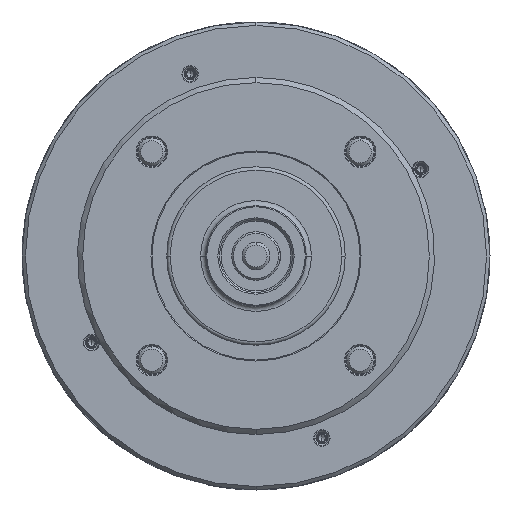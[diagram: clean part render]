
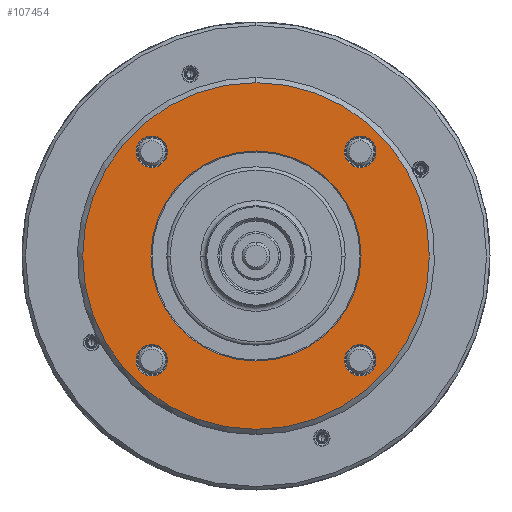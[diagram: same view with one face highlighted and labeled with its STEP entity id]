
A CAD part, left-side view. The second image highlights one B-rep face of the part: STEP entity #107454.
In plain terms, the highlighted planar face has unit normal (-1, 0, 0).
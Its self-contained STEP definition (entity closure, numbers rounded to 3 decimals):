
#709 = DIRECTION ( 'NONE',  ( 1., 0., 0. ) ) ;
#765 = CIRCLE ( 'NONE', #4421, 60.6 ) ;
#1848 = VERTEX_POINT ( 'NONE', #101922 ) ;
#2557 = CARTESIAN_POINT ( 'NONE',  ( -110., 60.104, -69.204 ) ) ;
#2603 = EDGE_CURVE ( 'NONE', #1848, #59154, #46236, .T. ) ;
#3678 = CIRCLE ( 'NONE', #12943, 9.1 ) ;
#4421 = AXIS2_PLACEMENT_3D ( 'NONE', #60303, #104466, #69603 ) ;
#5274 = DIRECTION ( 'NONE',  ( 0., 0., -1. ) ) ;
#5798 = CARTESIAN_POINT ( 'NONE',  ( -110., -60.104, -69.204 ) ) ;
#8389 = DIRECTION ( 'NONE',  ( 0., 0., -1. ) ) ;
#8823 = DIRECTION ( 'NONE',  ( 0., 0., -1. ) ) ;
#9206 = EDGE_CURVE ( 'NONE', #87935, #43146, #765, .T. ) ;
#12943 = AXIS2_PLACEMENT_3D ( 'NONE', #79035, #709, #8823 ) ;
#13077 = FACE_BOUND ( 'NONE', #104258, .T. ) ;
#14219 = PLANE ( 'NONE',  #48977 ) ;
#14330 = ORIENTED_EDGE ( 'NONE', *, *, #53131, .T. ) ;
#14814 = DIRECTION ( 'NONE',  ( 1., 0., 0. ) ) ;
#15297 = DIRECTION ( 'NONE',  ( 1., 0., 0. ) ) ;
#15385 = DIRECTION ( 'NONE',  ( 0., 0., -1. ) ) ;
#15545 = CIRCLE ( 'NONE', #39609, 9.1 ) ;
#19043 = EDGE_CURVE ( 'NONE', #107374, #83071, #59344, .T. ) ;
#19303 = DIRECTION ( 'NONE',  ( 0., 0., -1. ) ) ;
#20035 = FACE_BOUND ( 'NONE', #58895, .T. ) ;
#21447 = CIRCLE ( 'NONE', #47393, 9.1 ) ;
#23829 = ORIENTED_EDGE ( 'NONE', *, *, #9206, .T. ) ;
#29220 = ORIENTED_EDGE ( 'NONE', *, *, #96349, .T. ) ;
#30509 = FACE_BOUND ( 'NONE', #66523, .T. ) ;
#35564 = CARTESIAN_POINT ( 'NONE',  ( -110., 60.104, -60.104 ) ) ;
#36447 = DIRECTION ( 'NONE',  ( 0., 0., -1. ) ) ;
#39263 = EDGE_CURVE ( 'NONE', #112555, #94206, #58986, .T. ) ;
#39609 = AXIS2_PLACEMENT_3D ( 'NONE', #40657, #110936, #5274 ) ;
#40349 = FACE_BOUND ( 'NONE', #80455, .T. ) ;
#40409 = ORIENTED_EDGE ( 'NONE', *, *, #88780, .F. ) ;
#40657 = CARTESIAN_POINT ( 'NONE',  ( -110., -60.104, 60.104 ) ) ;
#40734 = EDGE_CURVE ( 'NONE', #91506, #113994, #3678, .T. ) ;
#43146 = VERTEX_POINT ( 'NONE', #94463 ) ;
#45082 = CARTESIAN_POINT ( 'NONE',  ( -110., 60.104, 69.204 ) ) ;
#45663 = EDGE_CURVE ( 'NONE', #94206, #112555, #21447, .T. ) ;
#46236 = CIRCLE ( 'NONE', #109327, 9.1 ) ;
#46562 = AXIS2_PLACEMENT_3D ( 'NONE', #106455, #88417, #88980 ) ;
#47393 = AXIS2_PLACEMENT_3D ( 'NONE', #65574, #109716, #49294 ) ;
#48280 = CIRCLE ( 'NONE', #61266, 9.1 ) ;
#48977 = AXIS2_PLACEMENT_3D ( 'NONE', #112322, #103604, #65896 ) ;
#49062 = FACE_OUTER_BOUND ( 'NONE', #111163, .T. ) ;
#49294 = DIRECTION ( 'NONE',  ( 0., 0., -1. ) ) ;
#49534 = ORIENTED_EDGE ( 'NONE', *, *, #45663, .T. ) ;
#49674 = EDGE_LOOP ( 'NONE', ( #49534, #56665 ) ) ;
#49722 = AXIS2_PLACEMENT_3D ( 'NONE', #79720, #60572, #8389 ) ;
#51444 = ORIENTED_EDGE ( 'NONE', *, *, #19043, .T. ) ;
#52347 = AXIS2_PLACEMENT_3D ( 'NONE', #62019, #55015, #36447 ) ;
#53131 = EDGE_CURVE ( 'NONE', #59154, #1848, #48280, .T. ) ;
#53223 = ORIENTED_EDGE ( 'NONE', *, *, #40734, .T. ) ;
#53489 = ORIENTED_EDGE ( 'NONE', *, *, #64808, .T. ) ;
#55015 = DIRECTION ( 'NONE',  ( 1., 0., 0. ) ) ;
#56207 = VERTEX_POINT ( 'NONE', #108141 ) ;
#56665 = ORIENTED_EDGE ( 'NONE', *, *, #39263, .T. ) ;
#58895 = EDGE_LOOP ( 'NONE', ( #53489, #53223 ) ) ;
#58986 = CIRCLE ( 'NONE', #49722, 9.1 ) ;
#59154 = VERTEX_POINT ( 'NONE', #45082 ) ;
#59344 = CIRCLE ( 'NONE', #105690, 9.1 ) ;
#60303 = CARTESIAN_POINT ( 'NONE',  ( -110., 0., 0. ) ) ;
#60572 = DIRECTION ( 'NONE',  ( 1., 0., 0. ) ) ;
#61266 = AXIS2_PLACEMENT_3D ( 'NONE', #67649, #14814, #15385 ) ;
#62019 = CARTESIAN_POINT ( 'NONE',  ( -110., 0., 0. ) ) ;
#63275 = CARTESIAN_POINT ( 'NONE',  ( -110., -60.104, 69.204 ) ) ;
#64454 = AXIS2_PLACEMENT_3D ( 'NONE', #94797, #15297, #86081 ) ;
#64808 = EDGE_CURVE ( 'NONE', #113994, #91506, #104829, .T. ) ;
#65048 = CARTESIAN_POINT ( 'NONE',  ( -110., 60.104, 60.104 ) ) ;
#65574 = CARTESIAN_POINT ( 'NONE',  ( -110., -60.104, -60.104 ) ) ;
#65896 = DIRECTION ( 'NONE',  ( 0., 0., -1. ) ) ;
#66523 = EDGE_LOOP ( 'NONE', ( #76834, #23829 ) ) ;
#67649 = CARTESIAN_POINT ( 'NONE',  ( -110., 60.104, 60.104 ) ) ;
#69586 = AXIS2_PLACEMENT_3D ( 'NONE', #35564, #91828, #19303 ) ;
#69603 = DIRECTION ( 'NONE',  ( 0., 0., -1. ) ) ;
#69837 = CARTESIAN_POINT ( 'NONE',  ( -110., -60.104, 60.104 ) ) ;
#71458 = DIRECTION ( 'NONE',  ( 1., 0., 0. ) ) ;
#72298 = CARTESIAN_POINT ( 'NONE',  ( -110., -60.104, 51.004 ) ) ;
#72736 = CIRCLE ( 'NONE', #52347, 100. ) ;
#76834 = ORIENTED_EDGE ( 'NONE', *, *, #111138, .T. ) ;
#77448 = CIRCLE ( 'NONE', #64454, 100. ) ;
#77965 = DIRECTION ( 'NONE',  ( 1., 0., 0. ) ) ;
#79035 = CARTESIAN_POINT ( 'NONE',  ( -110., 60.104, -60.104 ) ) ;
#79115 = DIRECTION ( 'NONE',  ( 0., 0., -1. ) ) ;
#79720 = CARTESIAN_POINT ( 'NONE',  ( -110., -60.104, -60.104 ) ) ;
#80455 = EDGE_LOOP ( 'NONE', ( #14330, #111140 ) ) ;
#83071 = VERTEX_POINT ( 'NONE', #63275 ) ;
#84457 = FACE_BOUND ( 'NONE', #49674, .T. ) ;
#85495 = CARTESIAN_POINT ( 'NONE',  ( -110., 60.104, -51.004 ) ) ;
#85529 = VERTEX_POINT ( 'NONE', #87364 ) ;
#86081 = DIRECTION ( 'NONE',  ( 0., 0., -1. ) ) ;
#87364 = CARTESIAN_POINT ( 'NONE',  ( -110., 0., -100. ) ) ;
#87935 = VERTEX_POINT ( 'NONE', #102854 ) ;
#88417 = DIRECTION ( 'NONE',  ( 1., 0., 0. ) ) ;
#88531 = ORIENTED_EDGE ( 'NONE', *, *, #94617, .F. ) ;
#88780 = EDGE_CURVE ( 'NONE', #56207, #85529, #77448, .T. ) ;
#88980 = DIRECTION ( 'NONE',  ( 0., 0., -1. ) ) ;
#91506 = VERTEX_POINT ( 'NONE', #2557 ) ;
#91828 = DIRECTION ( 'NONE',  ( 1., 0., 0. ) ) ;
#94206 = VERTEX_POINT ( 'NONE', #111119 ) ;
#94463 = CARTESIAN_POINT ( 'NONE',  ( -110., 0., 60.6 ) ) ;
#94617 = EDGE_CURVE ( 'NONE', #85529, #56207, #72736, .T. ) ;
#94797 = CARTESIAN_POINT ( 'NONE',  ( -110., 0., 0. ) ) ;
#96349 = EDGE_CURVE ( 'NONE', #83071, #107374, #15545, .T. ) ;
#100469 = DIRECTION ( 'NONE',  ( 0., 0., -1. ) ) ;
#101922 = CARTESIAN_POINT ( 'NONE',  ( -110., 60.104, 51.004 ) ) ;
#102210 = CIRCLE ( 'NONE', #46562, 60.6 ) ;
#102854 = CARTESIAN_POINT ( 'NONE',  ( -110., 0., -60.6 ) ) ;
#103604 = DIRECTION ( 'NONE',  ( 1., 0., 0. ) ) ;
#104258 = EDGE_LOOP ( 'NONE', ( #29220, #51444 ) ) ;
#104466 = DIRECTION ( 'NONE',  ( 1., 0., 0. ) ) ;
#104829 = CIRCLE ( 'NONE', #69586, 9.1 ) ;
#105690 = AXIS2_PLACEMENT_3D ( 'NONE', #69837, #77965, #79115 ) ;
#106455 = CARTESIAN_POINT ( 'NONE',  ( -110., 0., 0. ) ) ;
#107374 = VERTEX_POINT ( 'NONE', #72298 ) ;
#107454 = ADVANCED_FACE ( 'NONE', ( #20035, #84457, #13077, #40349, #49062, #30509 ), #14219, .F. ) ;
#108141 = CARTESIAN_POINT ( 'NONE',  ( -110., 0., 100. ) ) ;
#109327 = AXIS2_PLACEMENT_3D ( 'NONE', #65048, #71458, #100469 ) ;
#109716 = DIRECTION ( 'NONE',  ( 1., 0., 0. ) ) ;
#110936 = DIRECTION ( 'NONE',  ( 1., 0., 0. ) ) ;
#111119 = CARTESIAN_POINT ( 'NONE',  ( -110., -60.104, -51.004 ) ) ;
#111138 = EDGE_CURVE ( 'NONE', #43146, #87935, #102210, .T. ) ;
#111140 = ORIENTED_EDGE ( 'NONE', *, *, #2603, .T. ) ;
#111163 = EDGE_LOOP ( 'NONE', ( #88531, #40409 ) ) ;
#112322 = CARTESIAN_POINT ( 'NONE',  ( -110., -100., 0. ) ) ;
#112555 = VERTEX_POINT ( 'NONE', #5798 ) ;
#113994 = VERTEX_POINT ( 'NONE', #85495 ) ;
